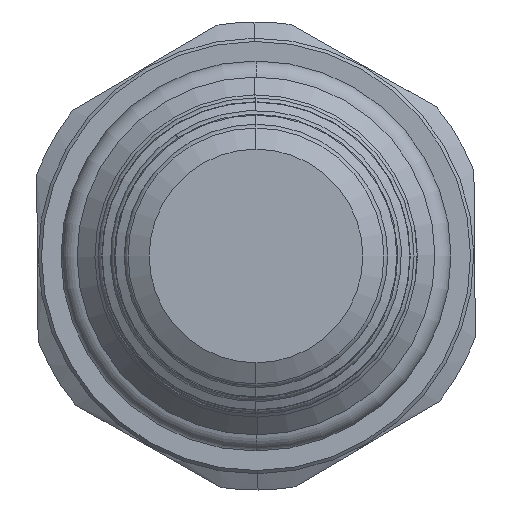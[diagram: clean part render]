
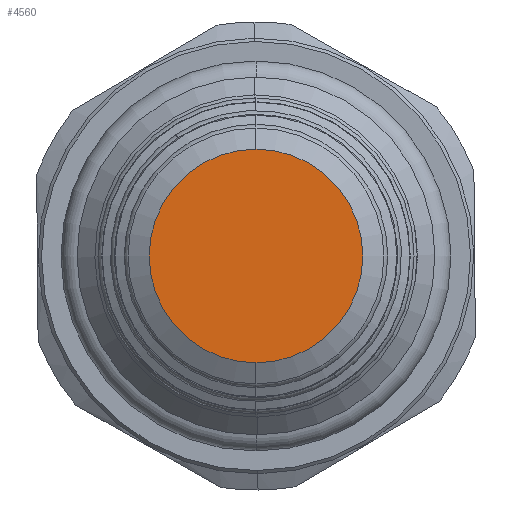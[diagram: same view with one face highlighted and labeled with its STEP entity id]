
A CAD part, left-side view. The second image highlights one B-rep face of the part: STEP entity #4560.
In plain terms, the highlighted planar face has unit normal (-1, 0, 0).
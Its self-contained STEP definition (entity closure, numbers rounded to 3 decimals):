
#2376=CARTESIAN_POINT('',(0.,0.,0.));
#2377=DIRECTION('',(-1.,0.,0.));
#2378=DIRECTION('',(0.,0.,-1.));
#2379=AXIS2_PLACEMENT_3D('',#2376,#2377,#2378);
#2384=CARTESIAN_POINT('',(0.,0.,0.));
#2385=DIRECTION('',(-1.,0.,0.));
#2386=DIRECTION('',(0.,0.,1.));
#2387=AXIS2_PLACEMENT_3D('',#2384,#2385,#2386);
#2425=CARTESIAN_POINT('',(0.,0.,-6.6));
#2427=VERTEX_POINT('',#2425);
#2428=CARTESIAN_POINT('',(0.,0.,6.6));
#2429=VERTEX_POINT('',#2428);
#4551=CARTESIAN_POINT('',(0.,6.15,0.));
#4552=DIRECTION('',(1.,0.,0.));
#4553=DIRECTION('',(0.,1.,0.));
#4554=AXIS2_PLACEMENT_3D('',#4551,#4552,#4553);
#4555=PLANE('',#4554);
#4556=ORIENTED_EDGE('',*,*,#4530,.F.);
#4557=ORIENTED_EDGE('',*,*,#4546,.F.);
#4558=EDGE_LOOP('',(#4556,#4557));
#4559=FACE_OUTER_BOUND('',#4558,.F.);
#2380=CIRCLE('',#2379,6.6);
#2388=CIRCLE('',#2387,6.6);
#4530=EDGE_CURVE('',#2427,#2429,#2380,.T.);
#4546=EDGE_CURVE('',#2429,#2427,#2388,.T.);
#4560=ADVANCED_FACE('',(#4559),#4555,.F.);
